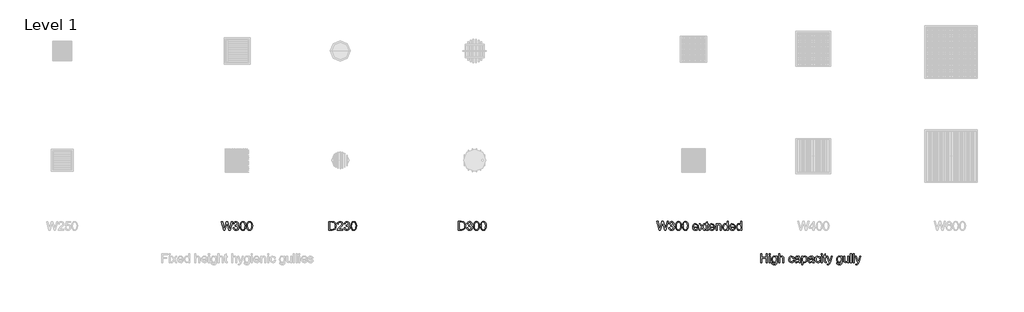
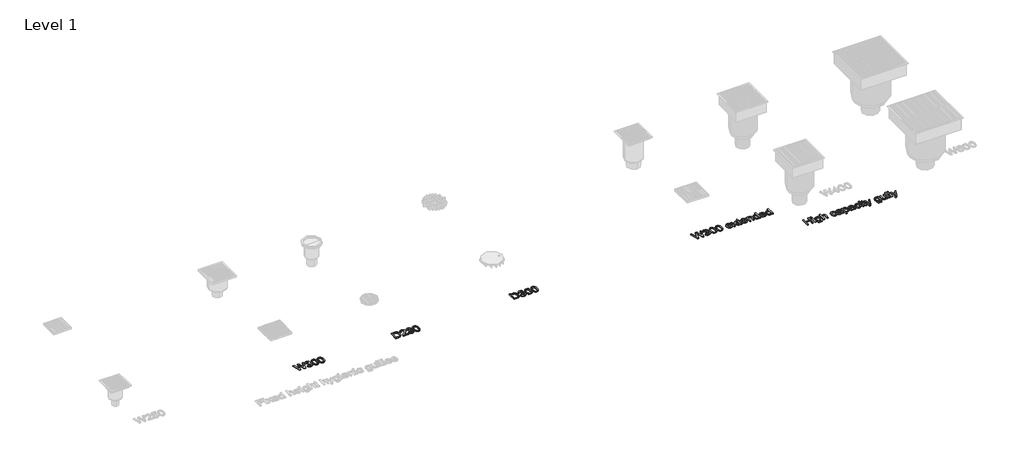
# One storey, part 3 of 5: 5 proxies.
"""IFC4 building model written with IfcOpenShell, lengths in millimetres."""

from ifc_helpers import new_model, si_unit, origin, origin_with_axes, place, context, project, spatial, polyline, outline, extrude, element, save

model = new_model("IFC4")

# Units and contexts
model_context = context("Model", 3, world=origin())
ifc_project = project(units=[si_unit("LENGTHUNIT", "METRE", prefix="MILLI")], contexts=[model_context])

# Site, building, storey
site = spatial("IfcSite", under=ifc_project)
building = spatial("IfcBuilding", under=site)
storey = spatial("IfcBuildingStorey", under=building, Name="Level 1", Elevation=0.0)

# Proxies
placement = place(None, origin())
element("IfcBuildingElementProxy", 1, Name="100mm ACO", ObjectType="100mm ACO", at=placement, inside=storey, context=model_context, shape_type="SweptSolid", body=[
    extrude(outline(polyline([(-51.8518519, -6500.0), (-78.0092593, -6600.0), (-93.8657407, -6600.0), (-113.744213, -6521.1516204), (-115.7407407, -6511.9502315), (-118.75, -6523.8136574), (-139.6990741, -6600.0), (-153.587963, -6600.0), (-179.6296296, -6500.0), (-166.3194444, -6500.0), (-151.1863426, -6565.6828704), (-147.3668981, -6584.6643519), (-142.7083333, -6567.505787), (-123.8425926, -6500.0), (-107.494213, -6500.0), (-93.8078704, -6550.6076389), (-86.3715278, -6586.1111111), (-81.25, -6564.3229167), (-65.2199074, -6500.0), (-51.8518519, -6500.0)])), origin_with_axes(), (0.0, 0.0, 1.0), 10.0),
    extrude(outline(polyline([(1.1863426, -6546.3975694), (9.516059, -6549.6346933), (15.5237269, -6555.4253472), (20.3703704, -6570.9490741), (17.8457755, -6583.2573785), (10.2719907, -6593.1568287), (-0.817419, -6599.6780961), (-13.8888889, -6601.8518519), (-26.1682581, -6599.9348958), (-36.0966435, -6594.1840278), (-43.0230035, -6585.2864583), (-46.2962963, -6573.9293981), (-33.3333333, -6572.2222222), (-26.5046296, -6587.5144676), (-13.4548611, -6592.5925926), (-5.3855613, -6591.0662616), (1.3454861, -6586.4872685), (5.8919271, -6579.6947338), (7.4074074, -6571.5277778), (5.9859664, -6563.7695312), (1.7216435, -6557.4508102), (-4.8357928, -6553.2515914), (-13.1365741, -6551.8518519), (-22.2222222, -6553.7037037), (-20.775463, -6542.5925926), (-12.9050926, -6542.1006944), (-6.4236111, -6539.6990741), (-0.4918981, -6534.2303241), (1.8518519, -6525.4050926), (-2.9369213, -6513.4837963), (-14.0335648, -6509.2592593), (-25.7667824, -6514.0625), (-31.4814815, -6527.7777778), (-44.4444444, -6525.5497685), (-40.6069155, -6514.3627025), (-33.8975694, -6506.3802083), (-24.9529803, -6501.5950521), (-14.4097222, -6500.0), (-2.9441551, -6501.8916377), (6.4525463, -6507.5665509), (12.7242477, -6515.9758391), (14.8148148, -6526.0706019), (11.4076968, -6538.1365741), (1.1863426, -6546.3975694)])), origin_with_axes(), (0.0, 0.0, 1.0), 10.0),
    extrude(outline(polyline([(64.7858796, -6500.0), (79.3818721, -6503.1864873), (89.807581, -6512.7459491), (96.0630064, -6528.6783854), (98.1481481, -6550.9837963), (95.9924769, -6573.4555845), (89.525463, -6589.3084491), (79.0292245, -6598.7160012), (64.7858796, -6601.8518519), (50.2152054, -6598.6725984), (39.807581, -6589.134838), (33.5630064, -6573.2385706), (31.4814815, -6550.9837963), (33.6371528, -6528.515625), (40.1041667, -6512.6157407), (50.5859375, -6503.1539352), (64.7858796, -6500.0)]), holes=[polyline([(64.8148148, -6592.5925926), (73.6545139, -6590.1584201), (80.0347222, -6582.8559028), (83.8975694, -6570.0195312), (85.1851852, -6550.9837963), (82.9282407, -6526.7650463), (76.1140046, -6513.599537), (64.6701389, -6509.2592593), (55.8485243, -6511.7368345), (49.5225694, -6519.1695602), (45.7139757, -6532.0782697), (44.4444444, -6550.9837963), (46.7447917, -6575.0434028), (53.5590278, -6588.2523148), (64.8148148, -6592.5925926)])]), origin_with_axes(), (0.0, 0.0, 1.0), 10.0),
    extrude(outline(polyline([(142.5636574, -6500.0), (157.1596499, -6503.1864873), (167.5853588, -6512.7459491), (173.8407841, -6528.6783854), (175.9259259, -6550.9837963), (173.7702546, -6573.4555845), (167.3032407, -6589.3084491), (156.8070023, -6598.7160012), (142.5636574, -6601.8518519), (127.9929832, -6598.6725984), (117.5853588, -6589.134838), (111.3407841, -6573.2385706), (109.2592593, -6550.9837963), (111.4149306, -6528.515625), (117.8819444, -6512.6157407), (128.3637153, -6503.1539352), (142.5636574, -6500.0)]), holes=[polyline([(142.5925926, -6592.5925926), (151.4322917, -6590.1584201), (157.8125, -6582.8559028), (161.6753472, -6570.0195312), (162.962963, -6550.9837963), (160.7060185, -6526.7650463), (153.8917824, -6513.599537), (142.4479167, -6509.2592593), (133.6263021, -6511.7368345), (127.3003472, -6519.1695602), (123.4917535, -6532.0782697), (122.2222222, -6550.9837963), (124.5225694, -6575.0434028), (131.3368056, -6588.2523148), (142.5925926, -6592.5925926)])]), origin_with_axes(), (0.0, 0.0, 1.0), 10.0),
])
element("IfcBuildingElementProxy", 2, Name="100mm ACO", ObjectType="100mm ACO", at=placement, inside=storey, context=model_context, shape_type="SweptSolid", body=[
    extrude(outline(polyline([(6062.6005819, -6969.3173034), (6049.6376189, -6969.3173034), (6049.6376189, -6921.1691553), (5997.785767, -6921.1691553), (5997.785767, -6969.3173034), (5984.8228041, -6969.3173034), (5984.8228041, -6869.3173034), (5997.785767, -6869.3173034), (5997.785767, -6910.0580442), (6049.6376189, -6910.0580442), (6049.6376189, -6869.3173034), (6062.6005819, -6869.3173034), (6062.6005819, -6969.3173034)])), origin_with_axes(), (0.0, 0.0, 1.0), 10.0),
    extrude(outline(polyline([(6095.9339152, -6969.3173034), (6082.9709522, -6969.3173034), (6082.9709522, -6897.0950812), (6095.9339152, -6897.0950812), (6095.9339152, -6969.3173034)])), origin_with_axes(), (0.0, 0.0, 1.0), 10.0),
    extrude(outline(polyline([(6095.9339152, -6882.2802664), (6082.9709522, -6882.2802664), (6082.9709522, -6869.3173034), (6095.9339152, -6869.3173034), (6095.9339152, -6882.2802664)])), origin_with_axes(), (0.0, 0.0, 1.0), 10.0),
    extrude(outline(polyline([(6173.711693, -6958.6691553), (6170.6590309, -6981.3109377), (6159.7938689, -6992.9428821), (6141.1306745, -6997.0950812), (6129.9146733, -6995.6881078), (6120.7458365, -6991.4671877), (6114.6368955, -6984.0416958), (6112.6005819, -6973.0210071), (6125.5635448, -6975.0754053), (6130.1353041, -6984.638484), (6141.3332207, -6987.8358219), (6154.6434059, -6984.1465858), (6159.8083365, -6975.1622108), (6160.74873, -6960.5499423), (6151.9741351, -6967.1254631), (6141.1596096, -6969.3173034), (6128.7681166, -6966.705903), (6119.0820633, -6958.8717016), (6112.8320633, -6947.0589122), (6110.74873, -6932.5117479), (6112.7307902, -6917.8705442), (6118.6769707, -6905.8913775), (6128.1243087, -6897.9052664), (6140.6098411, -6895.2432293), (6151.6847832, -6897.6231483), (6160.4883133, -6904.7629053), (6160.74873, -6897.0950812), (6173.711693, -6897.0950812), (6173.711693, -6958.6691553)]), holes=[polyline([(6143.098267, -6960.0580442), (6150.310362, -6958.4521414), (6156.6688689, -6953.634433), (6161.1176536, -6945.040683), (6162.6005819, -6932.1066553), (6161.1863747, -6920.3191842), (6156.9437532, -6911.6350118), (6150.6177983, -6906.2856194), (6142.9535911, -6904.5024886), (6135.2315136, -6906.3290222), (6129.0791698, -6911.8086229), (6125.0535622, -6920.4638601), (6123.711693, -6931.8173034), (6125.1186664, -6944.5343173), (6129.3395865, -6953.2872108), (6135.5932034, -6958.3653358), (6143.098267, -6960.0580442)])]), origin_with_axes(), (0.0, 0.0, 1.0), 10.0),
    extrude(outline(polyline([(6251.4894707, -6969.3173034), (6238.5265078, -6969.3173034), (6238.5265078, -6922.6159145), (6234.8372717, -6909.0308451), (6223.8274337, -6904.5024886), (6210.8934059, -6909.8410303), (6206.6182323, -6917.273756), (6205.1931745, -6928.8948497), (6205.1931745, -6969.3173034), (6192.2302115, -6969.3173034), (6192.2302115, -6869.3173034), (6205.1931745, -6869.3173034), (6205.1931745, -6905.1390627), (6214.8936953, -6897.7171877), (6226.7498874, -6895.2432293), (6240.0311374, -6898.1078127), (6248.9287069, -6906.9185766), (6251.4894707, -6923.4260997), (6251.4894707, -6969.3173034)])), origin_with_axes(), (0.0, 0.0, 1.0), 10.0),
    extrude(outline(polyline([(6370.0079893, -6944.8670719), (6365.9787647, -6956.6726275), (6358.8100726, -6964.8323497), (6349.4857092, -6969.5849539), (6338.9894707, -6971.1691553), (6324.6737879, -6968.5794562), (6314.0184059, -6960.810359), (6307.3994823, -6948.7660881), (6305.1931745, -6933.3508682), (6310.2278967, -6910.665683), (6322.8291698, -6898.700984), (6338.7290541, -6895.2432293), (6358.1879661, -6900.900058), (6364.7237011, -6907.8842884), (6368.1561374, -6917.5233219), (6355.1931745, -6919.3173034), (6349.2903967, -6908.2206599), (6338.87373, -6904.5024886), (6329.9182902, -6906.3868925), (6323.4223411, -6912.0401043), (6319.4726883, -6921.071499), (6318.1561374, -6933.0904516), (6319.4763052, -6945.3191842), (6323.4368087, -6954.4012155), (6329.8857381, -6960.0327259), (6338.6711837, -6961.909896), (6351.2724569, -6957.2802664), (6357.0450263, -6943.3913775), (6370.0079893, -6944.8670719)])), origin_with_axes(), (0.0, 0.0, 1.0), 10.0),
    extrude(outline(polyline([(6440.3783596, -6969.3173034), (6427.4153967, -6969.3173034), (6423.711693, -6960.5788775), (6411.2189268, -6968.5215858), (6397.7568319, -6971.1691553), (6387.7705761, -6969.722396), (6380.1497717, -6965.3821182), (6375.3212126, -6958.6691553), (6373.711693, -6950.1043405), (6375.2886606, -6941.7963254), (6380.0195633, -6935.1014469), (6388.6494823, -6930.2077837), (6401.9234985, -6927.3034145), (6413.2660911, -6925.5673034), (6423.711693, -6923.0210071), (6423.3789383, -6914.9914932), (6421.4402809, -6910.1159145), (6416.2753504, -6906.050521), (6406.6978041, -6904.5024886), (6394.6173643, -6907.6419562), (6388.5265078, -6919.3173034), (6375.5635448, -6917.7258682), (6379.1189557, -6907.9168405), (6385.7921328, -6900.8855905), (6395.5758423, -6896.6538196), (6408.4628504, -6895.2432293), (6427.7192161, -6899.1060766), (6435.2712995, -6908.4232062), (6436.6746559, -6922.4712386), (6436.6746559, -6938.9932293), (6437.2244245, -6959.247859), (6440.3783596, -6969.3173034)]), holes=[polyline([(6423.711693, -6936.909896), (6423.711693, -6932.2802664), (6400.4333365, -6937.6043405), (6390.1143261, -6941.6625002), (6386.6746559, -6949.9017942), (6390.3783596, -6958.5244793), (6401.055443, -6961.909896), (6416.8685217, -6956.2385997), (6422.0009001, -6948.5707756), (6423.711693, -6936.909896)])]), origin_with_axes(), (0.0, 0.0, 1.0), 10.0),
    extrude(outline(polyline([(6468.2863457, -6905.8045719), (6476.7426536, -6897.883565), (6488.410767, -6895.2432293), (6500.7371559, -6897.8329284), (6510.1700263, -6905.6020256), (6516.1596096, -6917.5305557), (6518.1561374, -6932.5985534), (6515.899193, -6948.487587), (6509.1283596, -6960.738021), (6499.0733828, -6968.5613717), (6486.9640078, -6971.1691553), (6476.5907439, -6969.0424192), (6468.5033596, -6962.6622108), (6468.1561374, -6997.0950812), (6455.1931745, -6997.0950812), (6455.1931745, -6897.0950812), (6468.1561374, -6897.0950812), (6468.2863457, -6905.8045719)]), holes=[polyline([(6485.5461837, -6961.909896), (6493.3188978, -6960.0833624), (6499.6231513, -6954.6037618), (6503.8006687, -6945.5072629), (6505.1931745, -6932.8300349), (6503.8513052, -6920.753212), (6499.8256976, -6911.837558), (6493.7095228, -6906.336256), (6486.0959522, -6904.5024886), (6478.2147312, -6906.5460361), (6471.8743087, -6912.6766784), (6467.6967914, -6922.0625291), (6466.3042856, -6933.8717016), (6467.638921, -6945.9846935), (6471.6428272, -6954.7773729), (6477.7879372, -6960.1267652), (6485.5461837, -6961.909896)])]), origin_with_axes(), (0.0, 0.0, 1.0), 10.0),
    extrude(outline(polyline([(6595.9339152, -6969.3173034), (6582.9709522, -6969.3173034), (6579.2672485, -6960.5788775), (6566.7744823, -6968.5215858), (6553.3123874, -6971.1691553), (6543.3261316, -6969.722396), (6535.7053272, -6965.3821182), (6530.8767682, -6958.6691553), (6529.2672485, -6950.1043405), (6530.8442161, -6941.7963254), (6535.5751189, -6935.1014469), (6544.2050379, -6930.2077837), (6557.4790541, -6927.3034145), (6568.8216467, -6925.5673034), (6579.2672485, -6923.0210071), (6578.9344939, -6914.9914932), (6576.9958365, -6910.1159145), (6571.8309059, -6906.050521), (6562.2533596, -6904.5024886), (6550.1729198, -6907.6419562), (6544.0820633, -6919.3173034), (6531.1191004, -6917.7258682), (6534.6745113, -6907.9168405), (6541.3476883, -6900.8855905), (6551.1313978, -6896.6538196), (6564.0184059, -6895.2432293), (6583.2747717, -6899.1060766), (6590.826855, -6908.4232062), (6592.2302115, -6922.4712386), (6592.2302115, -6938.9932293), (6592.77998, -6959.247859), (6595.9339152, -6969.3173034)]), holes=[polyline([(6579.2672485, -6936.909896), (6579.2672485, -6932.2802664), (6555.988892, -6937.6043405), (6545.6698816, -6941.6625002), (6542.2302115, -6949.9017942), (6545.9339152, -6958.5244793), (6556.6109985, -6961.909896), (6572.4240772, -6956.2385997), (6577.5564557, -6948.5707756), (6579.2672485, -6936.909896)])]), origin_with_axes(), (0.0, 0.0, 1.0), 10.0),
    extrude(outline(polyline([(6671.8598411, -6944.8670719), (6667.8306166, -6956.6726275), (6660.6619245, -6964.8323497), (6651.337561, -6969.5849539), (6640.8413226, -6971.1691553), (6626.5256397, -6968.5794562), (6615.8702578, -6960.810359), (6609.2513342, -6948.7660881), (6607.0450263, -6933.3508682), (6612.0797485, -6910.665683), (6624.6810217, -6898.700984), (6640.5809059, -6895.2432293), (6660.039818, -6900.900058), (6666.5755529, -6907.8842884), (6670.0079893, -6917.5233219), (6657.0450263, -6919.3173034), (6651.1422485, -6908.2206599), (6640.7255819, -6904.5024886), (6631.770142, -6906.3868925), (6625.274193, -6912.0401043), (6621.3245402, -6921.071499), (6620.0079893, -6933.0904516), (6621.3281571, -6945.3191842), (6625.2886606, -6954.4012155), (6631.73759, -6960.0327259), (6640.5230356, -6961.909896), (6653.1243087, -6957.2802664), (6658.8968782, -6943.3913775), (6671.8598411, -6944.8670719)])), origin_with_axes(), (0.0, 0.0, 1.0), 10.0),
    extrude(outline(polyline([(6692.2302115, -6969.3173034), (6679.2672485, -6969.3173034), (6679.2672485, -6897.0950812), (6692.2302115, -6897.0950812), (6692.2302115, -6969.3173034)])), origin_with_axes(), (0.0, 0.0, 1.0), 10.0),
    extrude(outline(polyline([(6692.2302115, -6882.2802664), (6679.2672485, -6882.2802664), (6679.2672485, -6869.3173034), (6692.2302115, -6869.3173034), (6692.2302115, -6882.2802664)])), origin_with_axes(), (0.0, 0.0, 1.0), 10.0),
    extrude(outline(polyline([(6738.5265078, -6970.3300349), (6729.4408596, -6971.1691553), (6717.852318, -6968.2901043), (6713.410767, -6960.9839701), (6712.6005819, -6948.6575812), (6712.6005819, -6906.3543405), (6703.3413226, -6906.3543405), (6703.3413226, -6897.0950812), (6712.6005819, -6897.0950812), (6712.6005819, -6878.7501738), (6725.5635448, -6871.1691553), (6725.5635448, -6897.0950812), (6736.6746559, -6897.0950812), (6736.6746559, -6906.3543405), (6725.5635448, -6906.3543405), (6725.5635448, -6951.2617479), (6726.6052115, -6959.4793405), (6731.9003504, -6961.909896), (6736.9350726, -6961.909896), (6738.5265078, -6970.3300349)])), origin_with_axes(), (0.0, 0.0, 1.0), 10.0),
    extrude(outline(polyline([(6807.0450263, -6897.0950812), (6779.8748874, -6971.2559608), (6770.832642, -6990.5991321), (6764.7454025, -6995.4710939), (6756.524193, -6997.0950812), (6748.9431745, -6995.9376738), (6747.785767, -6985.9839701), (6754.3251189, -6987.8358219), (6763.1792856, -6983.8717016), (6769.0531282, -6970.3879053), (6742.2302115, -6897.0950812), (6753.9489615, -6897.0950812), (6771.5704893, -6943.1888312), (6774.8980356, -6954.1263312), (6779.817017, -6940.4399886), (6795.3552115, -6897.0950812), (6807.0450263, -6897.0950812)])), origin_with_axes(), (0.0, 0.0, 1.0), 10.0),
    extrude(outline(polyline([(6916.3042856, -6958.6691553), (6913.2516235, -6981.3109377), (6902.3864615, -6992.9428821), (6883.723267, -6997.0950812), (6872.5072659, -6995.6881078), (6863.3384291, -6991.4671877), (6857.2294881, -6984.0416958), (6855.1931745, -6973.0210071), (6868.1561374, -6975.0754053), (6872.7278967, -6984.638484), (6883.9258133, -6987.8358219), (6897.2359985, -6984.1465858), (6902.4009291, -6975.1622108), (6903.3413226, -6960.5499423), (6894.5667277, -6967.1254631), (6883.7522022, -6969.3173034), (6871.3607092, -6966.705903), (6861.6746559, -6958.8717016), (6855.4246559, -6947.0589122), (6853.3413226, -6932.5117479), (6855.3233828, -6917.8705442), (6861.2695633, -6905.8913775), (6870.7169013, -6897.9052664), (6883.2024337, -6895.2432293), (6894.2773758, -6897.6231483), (6903.0809059, -6904.7629053), (6903.3413226, -6897.0950812), (6916.3042856, -6897.0950812), (6916.3042856, -6958.6691553)]), holes=[polyline([(6885.6908596, -6960.0580442), (6892.9029545, -6958.4521414), (6899.2614615, -6953.634433), (6903.7102462, -6945.040683), (6905.1931745, -6932.1066553), (6903.7789673, -6920.3191842), (6899.5363457, -6911.6350118), (6893.2103909, -6906.2856194), (6885.5461837, -6904.5024886), (6877.8241062, -6906.3290222), (6871.6717624, -6911.8086229), (6867.6461548, -6920.4638601), (6866.3042856, -6931.8173034), (6867.7112589, -6944.5343173), (6871.9321791, -6953.2872108), (6878.185796, -6958.3653358), (6885.6908596, -6960.0580442)])]), origin_with_axes(), (0.0, 0.0, 1.0), 10.0),
    extrude(outline(polyline([(6994.0820633, -6969.3173034), (6982.9709522, -6969.3173034), (6982.9709522, -6958.8138312), (6972.7278967, -6968.0803243), (6959.7649337, -6971.1691553), (6945.6445633, -6967.6535303), (6936.992943, -6957.9747108), (6934.8228041, -6941.9735534), (6934.8228041, -6897.0950812), (6947.785767, -6897.0950812), (6947.785767, -6938.0673034), (6948.6827578, -6952.1587386), (6953.3702578, -6959.1610534), (6962.3980356, -6961.909896), (6975.1439846, -6956.9909145), (6979.6253214, -6949.4388312), (6981.1191004, -6936.6205442), (6981.1191004, -6897.0950812), (6994.0820633, -6897.0950812), (6994.0820633, -6969.3173034)])), origin_with_axes(), (0.0, 0.0, 1.0), 10.0),
    extrude(outline(polyline([(7025.5635448, -6969.3173034), (7012.6005819, -6969.3173034), (7012.6005819, -6869.3173034), (7025.5635448, -6869.3173034), (7025.5635448, -6969.3173034)])), origin_with_axes(), (0.0, 0.0, 1.0), 10.0),
    extrude(outline(polyline([(7057.0450263, -6969.3173034), (7044.0820633, -6969.3173034), (7044.0820633, -6869.3173034), (7057.0450263, -6869.3173034), (7057.0450263, -6969.3173034)])), origin_with_axes(), (0.0, 0.0, 1.0), 10.0),
    extrude(outline(polyline([(7132.9709522, -6897.0950812), (7105.8008133, -6971.2559608), (7096.758568, -6990.5991321), (7090.6713284, -6995.4710939), (7082.4501189, -6997.0950812), (7074.8691004, -6995.9376738), (7073.711693, -6985.9839701), (7080.2510448, -6987.8358219), (7089.1052115, -6983.8717016), (7094.9790541, -6970.3879053), (7068.1561374, -6897.0950812), (7079.8748874, -6897.0950812), (7097.4964152, -6943.1888312), (7100.8239615, -6954.1263312), (7105.742943, -6940.4399886), (7121.2811374, -6897.0950812), (7132.9709522, -6897.0950812)])), origin_with_axes(), (0.0, 0.0, 1.0), 10.0),
])
element("IfcBuildingElementProxy", 3, Name="100mm ACO", ObjectType="100mm ACO", at=placement, inside=storey, context=model_context, shape_type="SweptSolid", body=[
    extrude(outline(polyline([(1049.6296296, -6500.0), (1083.6574074, -6500.0), (1099.0509259, -6500.9259259), (1111.3773148, -6505.4253472), (1121.6637731, -6515.2777778), (1128.59375, -6529.7019676), (1131.1111111, -6549.4502315), (1128.521412, -6569.5855035), (1120.7523148, -6585.7783565), (1106.6681134, -6596.4445891), (1085.1331019, -6600.0), (1049.6296296, -6600.0), (1049.6296296, -6500.0)]), holes=[polyline([(1062.5925926, -6588.8888889), (1083.9178241, -6588.8888889), (1095.5642361, -6588.0497685), (1105.9664352, -6583.521412), (1114.6903935, -6571.4265046), (1118.1481481, -6549.1608796), (1116.8171296, -6534.8668981), (1111.9270833, -6522.7575231), (1103.7528935, -6514.7569444), (1094.7540509, -6511.6608796), (1083.5127315, -6511.1111111), (1062.5925926, -6511.1111111), (1062.5925926, -6588.8888889)])]), origin_with_axes(), (0.0, 0.0, 1.0), 10.0),
    extrude(outline(polyline([(1208.8888889, -6600.0), (1142.2222222, -6600.0), (1148.1828704, -6584.4039352), (1170.2025463, -6562.7893519), (1187.96875, -6545.4571759), (1193.9366319, -6536.4293981), (1195.9259259, -6527.34375), (1190.5005787, -6514.380787), (1176.7997685, -6509.2592593), (1162.7662037, -6514.3663194), (1158.4982639, -6520.7356771), (1157.037037, -6529.6296296), (1144.0740741, -6528.2407407), (1147.2135417, -6516.1385995), (1154.2592593, -6507.2627315), (1164.4733796, -6501.8156829), (1177.1180556, -6500.0), (1190.4752604, -6502.0869502), (1200.5121528, -6508.3478009), (1206.7947049, -6517.5600405), (1208.8888889, -6528.5011574), (1207.1383102, -6538.4042245), (1201.8865741, -6548.4375), (1174.4560185, -6575.9548611), (1158.8888889, -6590.7407407), (1208.8888889, -6590.7407407), (1208.8888889, -6600.0)])), origin_with_axes(), (0.0, 0.0, 1.0), 10.0),
    extrude(outline(polyline([(1269.3344907, -6546.3975694), (1277.6642072, -6549.6346933), (1283.671875, -6555.4253472), (1288.5185185, -6570.9490741), (1285.9939236, -6583.2573785), (1278.4201389, -6593.1568287), (1267.3307292, -6599.6780961), (1254.2592593, -6601.8518519), (1241.97989, -6599.9348958), (1232.0515046, -6594.1840278), (1225.1251447, -6585.2864583), (1221.8518519, -6573.9293981), (1234.8148148, -6572.2222222), (1241.6435185, -6587.5144676), (1254.693287, -6592.5925926), (1262.7625868, -6591.0662616), (1269.4936343, -6586.4872685), (1274.0400752, -6579.6947338), (1275.5555556, -6571.5277778), (1274.1341146, -6563.7695312), (1269.8697917, -6557.4508102), (1263.3123553, -6553.2515914), (1255.0115741, -6551.8518519), (1245.9259259, -6553.7037037), (1247.3726852, -6542.5925926), (1255.2430556, -6542.1006944), (1261.724537, -6539.6990741), (1267.65625, -6534.2303241), (1270.0, -6525.4050926), (1265.2112269, -6513.4837963), (1254.1145833, -6509.2592593), (1242.3813657, -6514.0625), (1236.6666667, -6527.7777778), (1223.7037037, -6525.5497685), (1227.5412326, -6514.3627025), (1234.2505787, -6506.3802083), (1243.1951678, -6501.5950521), (1253.7384259, -6500.0), (1265.2039931, -6501.8916377), (1274.6006944, -6507.5665509), (1280.8723958, -6515.9758391), (1282.962963, -6526.0706019), (1279.5558449, -6538.1365741), (1269.3344907, -6546.3975694)])), origin_with_axes(), (0.0, 0.0, 1.0), 10.0),
    extrude(outline(polyline([(1332.9340278, -6500.0), (1347.5300203, -6503.1864873), (1357.9557292, -6512.7459491), (1364.2111545, -6528.6783854), (1366.2962963, -6550.9837963), (1364.140625, -6573.4555845), (1357.6736111, -6589.3084491), (1347.1773727, -6598.7160012), (1332.9340278, -6601.8518519), (1318.3633536, -6598.6725984), (1307.9557292, -6589.134838), (1301.7111545, -6573.2385706), (1299.6296296, -6550.9837963), (1301.7853009, -6528.515625), (1308.2523148, -6512.6157407), (1318.7340856, -6503.1539352), (1332.9340278, -6500.0)]), holes=[polyline([(1332.962963, -6592.5925926), (1341.802662, -6590.1584201), (1348.1828704, -6582.8559028), (1352.0457176, -6570.0195312), (1353.3333333, -6550.9837963), (1351.0763889, -6526.7650463), (1344.2621528, -6513.599537), (1332.818287, -6509.2592593), (1323.9966725, -6511.7368345), (1317.6707176, -6519.1695602), (1313.8621238, -6532.0782697), (1312.5925926, -6550.9837963), (1314.8929398, -6575.0434028), (1321.7071759, -6588.2523148), (1332.962963, -6592.5925926)])]), origin_with_axes(), (0.0, 0.0, 1.0), 10.0),
])
element("IfcBuildingElementProxy", 4, Name="100mm ACO", ObjectType="100mm ACO", at=placement, inside=storey, context=model_context, shape_type="SweptSolid", body=[
    extrude(outline(polyline([(2529.6945724, -6499.4155147), (2563.9212376, -6499.4155147), (2579.404729, -6500.3468525), (2591.8031638, -6504.8725723), (2602.149745, -6514.7825888), (2609.1202265, -6529.2910859), (2611.6523012, -6549.1547755), (2609.0474657, -6569.4077352), (2601.2329593, -6585.6952331), (2587.0664378, -6596.4238083), (2565.4055572, -6600.0), (2529.6945724, -6600.0), (2529.6945724, -6499.4155147)]), holes=[polyline([(2542.733302, -6588.8239461), (2564.1831764, -6588.8239461), (2575.89766, -6587.9799212), (2586.3606584, -6583.4250971), (2595.1356069, -6571.2594967), (2598.6135716, -6548.8637324), (2597.2747735, -6534.4862047), (2592.3561456, -6522.3060522), (2584.1341789, -6514.2587113), (2575.0827394, -6511.1445504), (2563.7757161, -6510.5915686), (2542.733302, -6510.5915686), (2542.733302, -6588.8239461)])]), origin_with_axes(), (0.0, 0.0, 1.0), 10.0),
    extrude(outline(polyline([(2672.4511987, -6546.0842711), (2680.8296011, -6549.3403155), (2686.8723829, -6555.1648149), (2691.7473543, -6570.7792757), (2689.2080036, -6583.1595203), (2681.5899512, -6593.1168314), (2670.4357255, -6599.6762146), (2657.2878547, -6601.8626757), (2644.9367144, -6599.9345153), (2634.9502991, -6594.1500343), (2627.9834555, -6585.2004598), (2624.6910308, -6573.7770193), (2637.7297604, -6572.0598652), (2644.5983769, -6587.4414915), (2657.7244194, -6592.5492974), (2665.840883, -6591.0140452), (2672.6112724, -6586.4082886), (2677.1842867, -6579.5760525), (2678.7086248, -6571.3613618), (2677.2788757, -6563.5577695), (2672.9896284, -6557.2021164), (2666.3938648, -6552.9783539), (2658.0445667, -6551.570433), (2648.9058143, -6553.4331086), (2650.3610297, -6542.2570547), (2658.2774012, -6541.7622815), (2664.796766, -6539.346624), (2670.7631489, -6533.84591), (2673.1205978, -6524.9690963), (2668.303835, -6512.9781218), (2657.1423332, -6508.728893), (2645.3405367, -6513.5602079), (2639.592436, -6527.3556495), (2626.5537065, -6525.1146178), (2630.4136652, -6513.8621651), (2637.1622264, -6505.8330144), (2646.1590953, -6501.0198896), (2656.7639772, -6499.4155147), (2668.2965589, -6501.3182088), (2677.7481826, -6507.026291), (2684.0565412, -6515.4847302), (2686.1593274, -6525.6384954), (2682.7322952, -6537.7749914), (2672.4511987, -6546.0842711)])), origin_with_axes(), (0.0, 0.0, 1.0), 10.0),
    extrude(outline(polyline([(2736.4224657, -6499.4155147), (2751.1037696, -6502.6206265), (2761.5904153, -6512.235962), (2767.8824027, -6528.261521), (2769.9797318, -6550.6973038), (2767.8114609, -6573.3004363), (2761.3066483, -6589.2459585), (2750.7490609, -6598.7084964), (2736.4224657, -6601.8626757), (2721.7666281, -6598.6648399), (2711.2981726, -6589.0713327), (2705.0170994, -6573.082154), (2702.9234083, -6550.6973038), (2705.0916791, -6528.0978093), (2711.5964918, -6512.1049926), (2722.139527, -6502.5878842), (2736.4224657, -6499.4155147)]), holes=[polyline([(2736.45157, -6592.5492974), (2745.3429359, -6590.1008975), (2751.7604356, -6582.755698), (2755.6458606, -6569.8442998), (2756.9410022, -6550.6973038), (2754.6708663, -6526.3369987), (2747.816802, -6513.094539), (2736.3060485, -6508.728893), (2727.4328729, -6511.2209492), (2721.0699437, -6518.6971181), (2717.2390893, -6531.6812771), (2715.9621378, -6550.6973038), (2718.2759303, -6574.8975351), (2725.1299946, -6588.1836513), (2736.45157, -6592.5492974)])]), origin_with_axes(), (0.0, 0.0, 1.0), 10.0),
    extrude(outline(polyline([(2814.6548432, -6499.4155147), (2829.3361471, -6502.6206265), (2839.8227928, -6512.235962), (2846.1147802, -6528.261521), (2848.2121093, -6550.6973038), (2846.0438384, -6573.3004363), (2839.5390258, -6589.2459585), (2828.9814384, -6598.7084964), (2814.6548432, -6601.8626757), (2799.9990056, -6598.6648399), (2789.5305501, -6589.0713327), (2783.2494768, -6573.082154), (2781.1557857, -6550.6973038), (2783.3240566, -6528.0978093), (2789.8288693, -6512.1049926), (2800.3719045, -6502.5878842), (2814.6548432, -6499.4155147)]), holes=[polyline([(2814.6839475, -6592.5492974), (2823.5753133, -6590.1008975), (2829.992813, -6582.755698), (2833.878238, -6569.8442998), (2835.1733797, -6550.6973038), (2832.9032438, -6526.3369987), (2826.0491794, -6513.094539), (2814.538426, -6508.728893), (2805.6652504, -6511.2209492), (2799.3023212, -6518.6971181), (2795.4714668, -6531.6812771), (2794.1945153, -6550.6973038), (2796.5083077, -6574.8975351), (2803.3623721, -6588.1836513), (2814.6839475, -6592.5492974)])]), origin_with_axes(), (0.0, 0.0, 1.0), 10.0),
])
element("IfcBuildingElementProxy", 5, Name="100mm ACO", ObjectType="100mm ACO", at=placement, inside=storey, context=model_context, shape_type="SweptSolid", body=[
    extrude(outline(polyline([(4928.9058143, -6499.4155147), (4902.5955207, -6600.0), (4886.6463604, -6600.0), (4866.6517014, -6520.6907632), (4864.6435042, -6511.4355935), (4861.6166563, -6523.3683594), (4840.545138, -6600.0), (4826.5750706, -6600.0), (4800.3811942, -6499.4155147), (4813.7691754, -6499.4155147), (4828.990728, -6565.4822918), (4832.8324966, -6584.5747172), (4837.51829, -6567.3158631), (4856.4942983, -6499.4155147), (4872.9382318, -6499.4155147), (4886.704569, -6550.3189478), (4894.1843759, -6586.0299326), (4899.3358383, -6564.1143894), (4915.4596244, -6499.4155147), (4928.9058143, -6499.4155147)])), origin_with_axes(), (0.0, 0.0, 1.0), 10.0),
    extrude(outline(polyline([(4982.2540092, -6546.0842711), (4990.6324116, -6549.3403155), (4996.6751934, -6555.1648149), (5001.5501648, -6570.7792757), (4999.010814, -6583.1595203), (4991.3927616, -6593.1168314), (4980.2385359, -6599.6762146), (4967.0906652, -6601.8626757), (4954.7395249, -6599.9345153), (4944.7531095, -6594.1500343), (4937.786266, -6585.2004598), (4934.4938413, -6573.7770193), (4947.5325708, -6572.0598652), (4954.4011873, -6587.4414915), (4967.5272298, -6592.5492974), (4975.6436935, -6591.0140452), (4982.4140829, -6586.4082886), (4986.9870971, -6579.5760525), (4988.5114352, -6571.3613618), (4987.0816861, -6563.5577695), (4982.7924389, -6557.2021164), (4976.1966753, -6552.9783539), (4967.8473772, -6551.570433), (4958.7086248, -6553.4331086), (4960.1638401, -6542.2570547), (4968.0802117, -6541.7622815), (4974.5995764, -6539.346624), (4980.5659594, -6533.84591), (4982.9234083, -6524.9690963), (4978.1066454, -6512.9781218), (4966.9451437, -6508.728893), (4955.1433471, -6513.5602079), (4949.3952465, -6527.3556495), (4936.3565169, -6525.1146178), (4940.2164756, -6513.8621651), (4946.9650369, -6505.8330144), (4955.9619058, -6501.0198896), (4966.5667877, -6499.4155147), (4978.0993694, -6501.3182088), (4987.5509931, -6507.026291), (4993.8593517, -6515.4847302), (4995.9621378, -6525.6384954), (4992.5351057, -6537.7749914), (4982.2540092, -6546.0842711)])), origin_with_axes(), (0.0, 0.0, 1.0), 10.0),
    extrude(outline(polyline([(5046.2252762, -6499.4155147), (5060.9065801, -6502.6206265), (5071.3932258, -6512.235962), (5077.6852132, -6528.261521), (5079.7825423, -6550.6973038), (5077.6142714, -6573.3004363), (5071.1094588, -6589.2459585), (5060.5518714, -6598.7084964), (5046.2252762, -6601.8626757), (5031.5694386, -6598.6648399), (5021.1009831, -6589.0713327), (5014.8199098, -6573.082154), (5012.7262187, -6550.6973038), (5014.8944896, -6528.0978093), (5021.3993022, -6512.1049926), (5031.9423375, -6502.5878842), (5046.2252762, -6499.4155147)]), holes=[polyline([(5046.2543805, -6592.5492974), (5055.1457463, -6590.1008975), (5061.563246, -6582.755698), (5065.448671, -6569.8442998), (5066.7438127, -6550.6973038), (5064.4736767, -6526.3369987), (5057.6196124, -6513.094539), (5046.108859, -6508.728893), (5037.2356833, -6511.2209492), (5030.8727542, -6518.6971181), (5027.0418998, -6531.6812771), (5025.7649483, -6550.6973038), (5028.0787407, -6574.8975351), (5034.932805, -6588.1836513), (5046.2543805, -6592.5492974)])]), origin_with_axes(), (0.0, 0.0, 1.0), 10.0),
    extrude(outline(polyline([(5124.4576537, -6499.4155147), (5139.1389576, -6502.6206265), (5149.6256032, -6512.235962), (5155.9175906, -6528.261521), (5158.0149198, -6550.6973038), (5155.8466489, -6573.3004363), (5149.3418362, -6589.2459585), (5138.7842488, -6598.7084964), (5124.4576537, -6601.8626757), (5109.801816, -6598.6648399), (5099.3333606, -6589.0713327), (5093.0522873, -6573.082154), (5090.9585962, -6550.6973038), (5093.1268671, -6528.0978093), (5099.6316797, -6512.1049926), (5110.174715, -6502.5878842), (5124.4576537, -6499.4155147)]), holes=[polyline([(5124.486758, -6592.5492974), (5133.3781238, -6590.1008975), (5139.7956235, -6582.755698), (5143.6810485, -6569.8442998), (5144.9761902, -6550.6973038), (5142.7060542, -6526.3369987), (5135.8519899, -6513.094539), (5124.3412364, -6508.728893), (5115.4680608, -6511.2209492), (5109.1051317, -6518.6971181), (5105.2742773, -6531.6812771), (5103.9973258, -6550.6973038), (5106.3111182, -6574.8975351), (5113.1651825, -6588.1836513), (5124.486758, -6592.5492974)])]), origin_with_axes(), (0.0, 0.0, 1.0), 10.0),
    extrude(outline(polyline([(5275.363486, -6566.4718382), (5221.345892, -6566.4718382), (5223.430488, -6577.6624443), (5228.170852, -6585.8553068), (5234.992174, -6590.8757997), (5243.3196438, -6592.5492974), (5255.0632318, -6588.8384982), (5262.3247564, -6577.6478922), (5275.363486, -6579.1613161), (5270.9614595, -6588.8384982), (5263.9837019, -6595.9836056), (5254.6848758, -6600.3929081), (5243.3196438, -6601.8626757), (5228.647435, -6599.3415151), (5217.5768842, -6591.7780332), (5210.6245929, -6579.8489054), (5208.3071624, -6564.2308066), (5210.540918, -6548.6017937), (5217.2421847, -6536.2324632), (5228.0035022, -6528.1778462), (5242.4174103, -6525.4929738), (5257.7262759, -6528.9709385), (5270.2265758, -6540.8163915), (5274.0792584, -6551.4139973), (5275.363486, -6566.4718382)]), holes=[polyline([(5262.3247564, -6557.15846), (5260.2292463, -6546.9428482), (5255.4561399, -6540.0451274), (5242.0972629, -6534.8063521), (5234.1954436, -6536.3634325), (5227.8361525, -6541.0346738), (5221.345892, -6557.15846), (5262.3247564, -6557.15846)])]), origin_with_axes(), (0.0, 0.0, 1.0), 10.0),
    extrude(outline(polyline([(5349.8705121, -6600.0), (5336.7444696, -6600.0), (5316.3714547, -6571.5359877), (5295.9984397, -6600.0), (5282.8141886, -6600.0), (5309.7356726, -6562.3681309), (5284.6768642, -6527.3556495), (5297.8029067, -6527.3556495), (5316.313246, -6553.1711699), (5334.794481, -6527.3556495), (5348.0078365, -6527.3556495), (5322.9199238, -6562.3972352), (5349.8705121, -6600.0)])), origin_with_axes(), (0.0, 0.0, 1.0), 10.0),
    extrude(outline(polyline([(5387.1240252, -6601.0186507), (5377.9852728, -6601.8626757), (5366.3289978, -6598.9667971), (5361.8614866, -6591.6179596), (5361.046566, -6579.2195247), (5361.046566, -6536.6690278), (5351.7331878, -6536.6690278), (5351.7331878, -6527.3556495), (5361.046566, -6527.3556495), (5361.046566, -6508.9035188), (5374.0852956, -6501.2781903), (5374.0852956, -6527.3556495), (5385.2613495, -6527.3556495), (5385.2613495, -6536.6690278), (5374.0852956, -6536.6690278), (5374.0852956, -6581.8389124), (5375.1330507, -6590.1045356), (5380.4591389, -6592.5492974), (5385.5232883, -6592.5492974), (5387.1240252, -6601.0186507)])), origin_with_axes(), (0.0, 0.0, 1.0), 10.0),
    extrude(outline(polyline([(5461.6310514, -6566.4718382), (5407.6134574, -6566.4718382), (5409.6980534, -6577.6624443), (5414.4384174, -6585.8553068), (5421.2597394, -6590.8757997), (5429.5872093, -6592.5492974), (5441.3307972, -6588.8384982), (5448.5923218, -6577.6478922), (5461.6310514, -6579.1613161), (5457.2290249, -6588.8384982), (5450.2512673, -6595.9836056), (5440.9524412, -6600.3929081), (5429.5872093, -6601.8626757), (5414.9150004, -6599.3415151), (5403.8444496, -6591.7780332), (5396.8921583, -6579.8489054), (5394.5747278, -6564.2308066), (5396.8084834, -6548.6017937), (5403.5097501, -6536.2324632), (5414.2710676, -6528.1778462), (5428.6849757, -6525.4929738), (5443.9938413, -6528.9709385), (5456.4941412, -6540.8163915), (5460.3468238, -6551.4139973), (5461.6310514, -6566.4718382)]), holes=[polyline([(5448.5923218, -6557.15846), (5446.4968117, -6546.9428482), (5441.7237053, -6540.0451274), (5428.3648284, -6534.8063521), (5420.463009, -6536.3634325), (5414.1037179, -6541.0346738), (5407.6134574, -6557.15846), (5448.5923218, -6557.15846)])]), origin_with_axes(), (0.0, 0.0, 1.0), 10.0),
    extrude(outline(polyline([(5536.1380775, -6600.0), (5523.0993479, -6600.0), (5523.0993479, -6554.7719068), (5519.213923, -6539.0846853), (5508.4016729, -6534.8063521), (5498.3170305, -6537.542157), (5491.5648312, -6545.2547984), (5489.5711862, -6559.341283), (5489.5711862, -6600.0), (5476.5324566, -6600.0), (5476.5324566, -6527.3556495), (5487.7085105, -6527.3556495), (5487.7085105, -6537.4548441), (5497.6621835, -6528.4761653), (5510.9919562, -6525.4929738), (5522.4299489, -6527.5593796), (5531.2776582, -6533.7440449), (5535.3086048, -6542.5335456), (5536.1380775, -6555.1502628), (5536.1380775, -6600.0)])), origin_with_axes(), (0.0, 0.0, 1.0), 10.0),
    extrude(outline(polyline([(5614.370455, -6600.0), (5601.3317254, -6600.0), (5601.3317254, -6591.7925854), (5592.9278567, -6599.3451531), (5581.482588, -6601.8626757), (5569.546184, -6599.2069076), (5559.7562227, -6591.2396036), (5553.2186678, -6579.0376228), (5551.0394828, -6563.6778247), (5553.1277168, -6547.8450817), (5559.3924189, -6535.7376899), (5569.0841532, -6528.0541529), (5581.4534837, -6525.4929738), (5592.8041634, -6527.7922141), (5601.0697867, -6534.6899349), (5601.3317254, -6499.4155147), (5614.370455, -6499.4155147), (5614.370455, -6600.0)]), holes=[polyline([(5582.9960119, -6592.5492974), (5590.0901868, -6590.8321433), (5596.0056372, -6585.6806809), (5600.0002034, -6577.0367017), (5601.3317254, -6564.841997), (5596.456754, -6542.9555581), (5590.5231134, -6536.8436536), (5582.4721344, -6534.8063521), (5574.4793641, -6536.7999971), (5568.7203493, -6542.7809323), (5564.0782123, -6563.7069291), (5566.5811827, -6579.5542243), (5573.5662165, -6589.289615), (5582.9960119, -6592.5492974)])]), origin_with_axes(), (0.0, 0.0, 1.0), 10.0),
    extrude(outline(polyline([(5696.3281838, -6566.4718382), (5642.3105898, -6566.4718382), (5644.3951858, -6577.6624443), (5649.1355498, -6585.8553068), (5655.9568718, -6590.8757997), (5664.2843417, -6592.5492974), (5676.0279296, -6588.8384982), (5683.2894542, -6577.6478922), (5696.3281838, -6579.1613161), (5691.9261573, -6588.8384982), (5684.9483997, -6595.9836056), (5675.6495736, -6600.3929081), (5664.2843417, -6601.8626757), (5649.6121329, -6599.3415151), (5638.541582, -6591.7780332), (5631.5892907, -6579.8489054), (5629.2718602, -6564.2308066), (5631.5056158, -6548.6017937), (5638.2068825, -6536.2324632), (5648.9682001, -6528.1778462), (5663.3821081, -6525.4929738), (5678.6909737, -6528.9709385), (5691.1912736, -6540.8163915), (5695.0439562, -6551.4139973), (5696.3281838, -6566.4718382)]), holes=[polyline([(5683.2894542, -6557.15846), (5681.1939441, -6546.9428482), (5676.4208377, -6540.0451274), (5663.0619608, -6534.8063521), (5655.1601414, -6536.3634325), (5648.8008503, -6541.0346738), (5642.3105898, -6557.15846), (5683.2894542, -6557.15846)])]), origin_with_axes(), (0.0, 0.0, 1.0), 10.0),
    extrude(outline(polyline([(5770.8352099, -6600.0), (5757.7964804, -6600.0), (5757.7964804, -6591.7925854), (5749.3926117, -6599.3451531), (5737.9473429, -6601.8626757), (5726.010939, -6599.2069076), (5716.2209777, -6591.2396036), (5709.6834227, -6579.0376228), (5707.5042377, -6563.6778247), (5709.5924717, -6547.8450817), (5715.8571738, -6535.7376899), (5725.5489081, -6528.0541529), (5737.9182386, -6525.4929738), (5749.2689184, -6527.7922141), (5757.5345416, -6534.6899349), (5757.7964804, -6499.4155147), (5770.8352099, -6499.4155147), (5770.8352099, -6600.0)]), holes=[polyline([(5739.4607669, -6592.5492974), (5746.5549417, -6590.8321433), (5752.4703922, -6585.6806809), (5756.4649583, -6577.0367017), (5757.7964804, -6564.841997), (5752.9215089, -6542.9555581), (5746.9878683, -6536.8436536), (5738.9368894, -6534.8063521), (5730.944119, -6536.7999971), (5725.1851043, -6542.7809323), (5720.5429673, -6563.7069291), (5723.0459377, -6579.5542243), (5730.0309714, -6589.289615), (5739.4607669, -6592.5492974)])]), origin_with_axes(), (0.0, 0.0, 1.0), 10.0),
])

save(model, "model.ifc")
